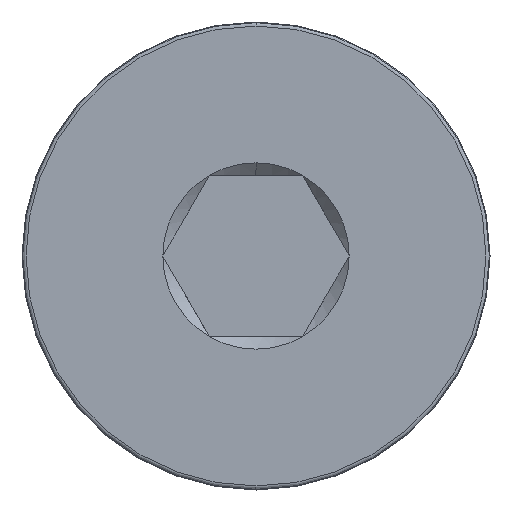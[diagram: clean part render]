
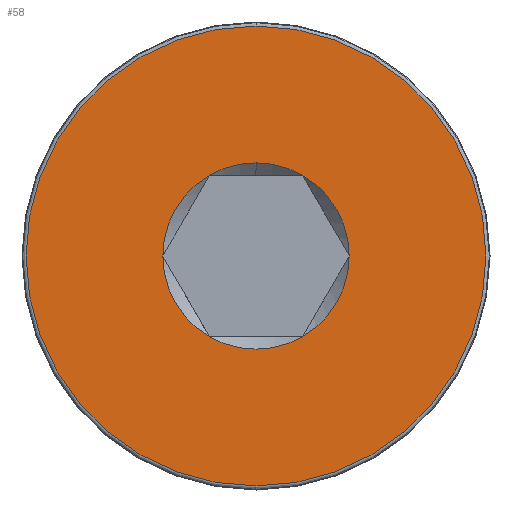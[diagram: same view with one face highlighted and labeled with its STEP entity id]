
A CAD part, left-side view. The second image highlights one B-rep face of the part: STEP entity #58.
In plain terms, the highlighted planar face has unit normal (-1, 0, 0).
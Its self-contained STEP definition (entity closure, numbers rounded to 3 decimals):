
#18 = DIRECTION ( 'NONE',  ( 1., 0., 0. ) ) ;
#20 = CARTESIAN_POINT ( 'NONE',  ( 0., 0.577, -1. ) ) ;
#22 = CARTESIAN_POINT ( 'NONE',  ( 0., 0., 0. ) ) ;
#31 = EDGE_LOOP ( 'NONE', ( #232, #112, #581, #516, #292, #222, #123 ) ) ;
#33 = CIRCLE ( 'NONE', #241, 1.155 ) ;
#38 = DIRECTION ( 'NONE',  ( 0., 0., -1. ) ) ;
#58 = ADVANCED_FACE ( 'NONE', ( #567, #82 ), #686, .T. ) ;
#65 = CARTESIAN_POINT ( 'NONE',  ( 0., 0., 0. ) ) ;
#82 = FACE_BOUND ( 'NONE', #31, .T. ) ;
#112 = ORIENTED_EDGE ( 'NONE', *, *, #771, .T. ) ;
#116 = AXIS2_PLACEMENT_3D ( 'NONE', #644, #167, #38 ) ;
#119 = DIRECTION ( 'NONE',  ( 0., 0., 1. ) ) ;
#121 = CIRCLE ( 'NONE', #569, 1.155 ) ;
#123 = ORIENTED_EDGE ( 'NONE', *, *, #492, .T. ) ;
#129 = DIRECTION ( 'NONE',  ( 0., 0., -1. ) ) ;
#154 = CIRCLE ( 'NONE', #658, 1.155 ) ;
#166 = VERTEX_POINT ( 'NONE', #646 ) ;
#167 = DIRECTION ( 'NONE',  ( 1., 0., 0. ) ) ;
#169 = VERTEX_POINT ( 'NONE', #540 ) ;
#171 = EDGE_CURVE ( 'NONE', #166, #436, #231, .T. ) ;
#178 = EDGE_CURVE ( 'NONE', #169, #402, #121, .T. ) ;
#222 = ORIENTED_EDGE ( 'NONE', *, *, #715, .T. ) ;
#227 = AXIS2_PLACEMENT_3D ( 'NONE', #406, #278, #648 ) ;
#231 = CIRCLE ( 'NONE', #708, 2.85 ) ;
#232 = ORIENTED_EDGE ( 'NONE', *, *, #178, .T. ) ;
#233 = DIRECTION ( 'NONE',  ( -1., 0., 0. ) ) ;
#241 = AXIS2_PLACEMENT_3D ( 'NONE', #22, #18, #380 ) ;
#251 = CARTESIAN_POINT ( 'NONE',  ( 0., 0., 0. ) ) ;
#253 = AXIS2_PLACEMENT_3D ( 'NONE', #251, #497, #129 ) ;
#278 = DIRECTION ( 'NONE',  ( 1., 0., 0. ) ) ;
#282 = CIRCLE ( 'NONE', #253, 1.155 ) ;
#292 = ORIENTED_EDGE ( 'NONE', *, *, #669, .T. ) ;
#299 = DIRECTION ( 'NONE',  ( 1., 0., 0. ) ) ;
#317 = VERTEX_POINT ( 'NONE', #625 ) ;
#330 = DIRECTION ( 'NONE',  ( 1., 0., 0. ) ) ;
#352 = CARTESIAN_POINT ( 'NONE',  ( 0., 0., 0. ) ) ;
#362 = ORIENTED_EDGE ( 'NONE', *, *, #645, .T. ) ;
#363 = CARTESIAN_POINT ( 'NONE',  ( 0., 0., 0. ) ) ;
#371 = DIRECTION ( 'NONE',  ( -1., 0., 0. ) ) ;
#380 = DIRECTION ( 'NONE',  ( 0., 0., -1. ) ) ;
#387 = VERTEX_POINT ( 'NONE', #20 ) ;
#402 = VERTEX_POINT ( 'NONE', #515 ) ;
#405 = CIRCLE ( 'NONE', #227, 1.155 ) ;
#406 = CARTESIAN_POINT ( 'NONE',  ( 0., 0., 0. ) ) ;
#411 = CARTESIAN_POINT ( 'NONE',  ( 0., 0., 1.155 ) ) ;
#422 = CARTESIAN_POINT ( 'NONE',  ( 0., 0., 0. ) ) ;
#429 = CIRCLE ( 'NONE', #116, 1.155 ) ;
#433 = EDGE_CURVE ( 'NONE', #489, #317, #154, .T. ) ;
#436 = VERTEX_POINT ( 'NONE', #745 ) ;
#473 = CIRCLE ( 'NONE', #509, 2.85 ) ;
#479 = DIRECTION ( 'NONE',  ( 0., 0., 1. ) ) ;
#485 = CARTESIAN_POINT ( 'NONE',  ( 0., 0., 0. ) ) ;
#489 = VERTEX_POINT ( 'NONE', #696 ) ;
#492 = EDGE_CURVE ( 'NONE', #387, #169, #405, .T. ) ;
#497 = DIRECTION ( 'NONE',  ( 1., 0., 0. ) ) ;
#498 = CIRCLE ( 'NONE', #543, 1.155 ) ;
#509 = AXIS2_PLACEMENT_3D ( 'NONE', #363, #371, #119 ) ;
#515 = CARTESIAN_POINT ( 'NONE',  ( 0., 0.577, 1. ) ) ;
#516 = ORIENTED_EDGE ( 'NONE', *, *, #433, .T. ) ;
#530 = VERTEX_POINT ( 'NONE', #411 ) ;
#533 = EDGE_CURVE ( 'NONE', #530, #489, #429, .T. ) ;
#540 = CARTESIAN_POINT ( 'NONE',  ( 0., 1.155, 0. ) ) ;
#543 = AXIS2_PLACEMENT_3D ( 'NONE', #485, #597, #725 ) ;
#551 = DIRECTION ( 'NONE',  ( 0., 0., -1. ) ) ;
#567 = FACE_OUTER_BOUND ( 'NONE', #695, .T. ) ;
#569 = AXIS2_PLACEMENT_3D ( 'NONE', #422, #299, #551 ) ;
#573 = DIRECTION ( 'NONE',  ( 0., 0., -1. ) ) ;
#581 = ORIENTED_EDGE ( 'NONE', *, *, #533, .T. ) ;
#593 = CARTESIAN_POINT ( 'NONE',  ( 0., -0.577, -1. ) ) ;
#597 = DIRECTION ( 'NONE',  ( 1., 0., 0. ) ) ;
#609 = DIRECTION ( 'NONE',  ( -1., 0., 0. ) ) ;
#625 = CARTESIAN_POINT ( 'NONE',  ( 0., -1.155, 0. ) ) ;
#630 = ORIENTED_EDGE ( 'NONE', *, *, #171, .T. ) ;
#644 = CARTESIAN_POINT ( 'NONE',  ( 0., 0., 0. ) ) ;
#645 = EDGE_CURVE ( 'NONE', #436, #166, #473, .T. ) ;
#646 = CARTESIAN_POINT ( 'NONE',  ( 0., 0., 2.85 ) ) ;
#648 = DIRECTION ( 'NONE',  ( 0., 0., -1. ) ) ;
#658 = AXIS2_PLACEMENT_3D ( 'NONE', #672, #330, #573 ) ;
#669 = EDGE_CURVE ( 'NONE', #317, #674, #498, .T. ) ;
#670 = DIRECTION ( 'NONE',  ( 0., 0., 1. ) ) ;
#672 = CARTESIAN_POINT ( 'NONE',  ( 0., 0., 0. ) ) ;
#673 = AXIS2_PLACEMENT_3D ( 'NONE', #352, #233, #479 ) ;
#674 = VERTEX_POINT ( 'NONE', #593 ) ;
#686 = PLANE ( 'NONE',  #673 ) ;
#695 = EDGE_LOOP ( 'NONE', ( #630, #362 ) ) ;
#696 = CARTESIAN_POINT ( 'NONE',  ( 0., -0.577, 1. ) ) ;
#708 = AXIS2_PLACEMENT_3D ( 'NONE', #65, #609, #670 ) ;
#715 = EDGE_CURVE ( 'NONE', #674, #387, #282, .T. ) ;
#725 = DIRECTION ( 'NONE',  ( 0., 0., -1. ) ) ;
#745 = CARTESIAN_POINT ( 'NONE',  ( 0., 0., -2.85 ) ) ;
#771 = EDGE_CURVE ( 'NONE', #402, #530, #33, .T. ) ;
